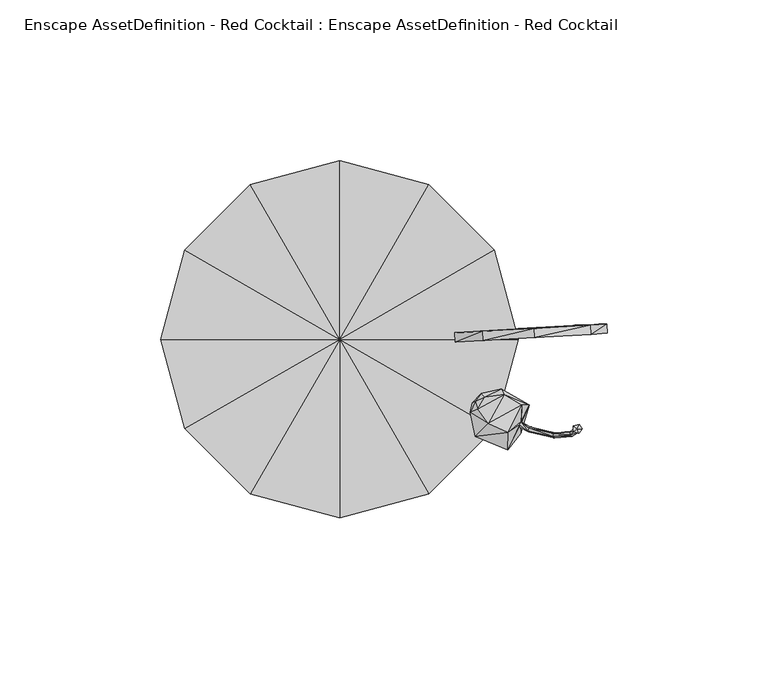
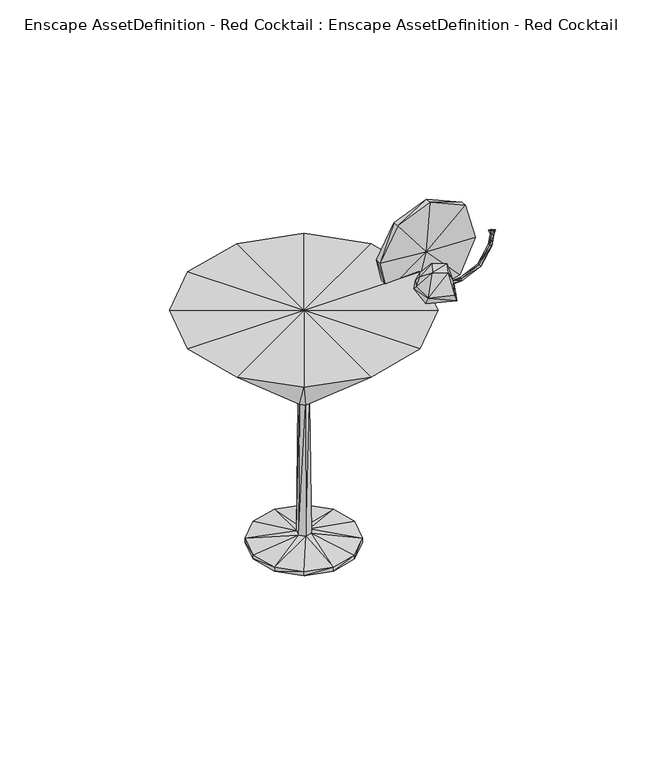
"""IFC4 building model written with IfcOpenShell, lengths in millimetres: geographic element geometry, Enscape AssetDefinition - Red Cocktail : Enscape AssetDefinition - Red Cocktail."""

from ifc_helpers import new_model, si_unit, origin, place, context, project, spatial, faceted_brep, source, transform, mapped, element, save


def enscape_assetdefinition_red_cocktail_enscape_assetdefinition_719ef9fb(model_context):
    return source(origin(), model_context, "Body", "Brep", [
        faceted_brep([(21.0398547, 12.1475421, 1.8707004), (24.2941249, 0.0, 0.0), (21.0398547, 12.1475421, 0.0), (24.2941249, 0.0, 1.8707004), (21.0398547, -12.1475421, 0.0), (12.1475421, 21.0398547, 1.8707004), (3.1139906, 0.8349454, 5.0212019), (0.8349454, 3.1139906, 5.0212019), (21.0398547, -12.1475421, 1.8707004), (12.1475421, -21.0398547, 0.0), (0.0, -24.2941249, 0.0), (12.1475421, -21.0398547, 1.8707004), (2.2800062, -2.2800062, 5.0212019), (0.0, -24.2941249, 1.8707004), (-12.1475421, -21.0398547, 0.0), (-21.0398547, -12.1475421, 0.0), (-21.0398547, 12.1475421, 0.0), (-12.1475421, -21.0398547, 1.8707004), (-0.8349454, -3.1139906, 5.0212019), (-21.0398547, -12.1475421, 1.8707004), (-24.2941249, 0.0, 0.0), (-3.1139906, -0.8349454, 5.0212019), (-0.637979, -2.3818521, 70.7147792), (1.7438732, -1.7438732, 70.7147792), (-24.2941249, 0.0, 1.8707004), (-21.0398547, 12.1475421, 1.8707004), (-2.2800062, 2.2800062, 5.0212019), (-2.3818521, -0.637979, 70.7147792), (-12.1475421, 21.0398547, 0.0), (-12.1475421, 21.0398547, 1.8707004), (0.0, 24.2941249, 0.0), (0.0, 24.2941249, 1.8707004), (12.1475421, 21.0398547, 0.0), (0.637979, 2.3818521, 70.7147792), (-1.7438732, 1.7438732, 70.7147792), (2.3818521, 0.637979, 70.7147792), (55.5483699, 0.0, 116.9999614), (48.106879, 27.7741831, 116.9999614), (27.7741831, 48.106879, 116.9999614), (27.7741831, -48.106879, 116.9999614), (48.106879, -27.7741831, 116.9999614), (0.0, 0.0, 116.9999614), (0.0, 55.5483699, 116.9999614), (-27.7741831, 48.106879, 116.9999614), (-48.106879, 27.7741831, 116.9999614), (-55.5483699, 0.0, 116.9999614), (-48.106879, -27.7741831, 116.9999614), (-27.7741831, -48.106879, 116.9999614), (0.0, -55.5483699, 116.9999614)], [[[0, 1, 2]], [[1, 0, 3]], [[3, 4, 1]], [[2, 1, 4]], [[2, 5, 0]], [[6, 3, 0]], [[7, 0, 5]], [[0, 7, 6]], [[4, 3, 8]], [[6, 8, 3]], [[8, 9, 4]], [[10, 4, 9]], [[2, 4, 10]], [[9, 8, 11]], [[12, 11, 8]], [[8, 6, 12]], [[11, 10, 9]], [[10, 11, 13]], [[12, 13, 11]], [[13, 14, 10]], [[15, 10, 14]], [[16, 10, 15]], [[2, 10, 16]], [[14, 13, 17]], [[18, 17, 13]], [[13, 12, 18]], [[17, 15, 14]], [[19, 20, 15]], [[15, 17, 19]], [[16, 15, 20]], [[18, 19, 17]], [[19, 18, 21]], [[22, 21, 18]], [[23, 18, 12]], [[18, 23, 22]], [[20, 19, 24]], [[21, 24, 19]], [[24, 16, 20]], [[16, 24, 25]], [[21, 25, 24]], [[25, 21, 26]], [[27, 26, 21]], [[21, 22, 27]], [[25, 28, 16]], [[28, 25, 29]], [[26, 29, 25]], [[29, 30, 28]], [[30, 16, 28]], [[2, 16, 30]], [[31, 32, 30]], [[30, 29, 31]], [[2, 30, 32]], [[26, 31, 29]], [[32, 31, 5]], [[7, 5, 31]], [[31, 26, 7]], [[5, 2, 32]], [[33, 6, 7]], [[34, 7, 26]], [[7, 34, 33]], [[6, 33, 35]], [[35, 12, 6]], [[12, 35, 23]], [[36, 35, 37]], [[38, 35, 33]], [[35, 38, 37]], [[36, 23, 35]], [[39, 22, 23]], [[39, 23, 40]], [[23, 36, 40]], [[41, 36, 37]], [[36, 41, 40]], [[41, 37, 38]], [[38, 33, 42]], [[41, 38, 42]], [[43, 33, 34]], [[33, 43, 42]], [[41, 42, 43]], [[43, 34, 44]], [[41, 43, 44]], [[26, 27, 34]], [[45, 34, 27]], [[34, 45, 44]], [[41, 44, 45]], [[45, 27, 46]], [[41, 45, 46]], [[47, 27, 22]], [[27, 47, 46]], [[41, 46, 47]], [[47, 22, 48]], [[41, 47, 48]], [[22, 39, 48]], [[41, 48, 39]], [[41, 39, 40]]]),
        faceted_brep([(56.2122874, -26.6875066, 126.8675029), (52.2835292, -34.4825722, 127.2076219), (56.3198999, -29.209638, 119.9611872), (55.7981767, -27.2553451, 127.6428699), (55.846218, -26.6884658, 128.521055), (52.4430238, -29.0299635, 135.3841275), (42.2526561, -30.149309, 126.7502755), (58.846835, -28.8771968, 128.8794428), (56.2901162, -25.7699303, 128.2885373), (58.5672371, -28.520735, 129.7662705), (56.5783568, -20.3865021, 133.1915557), (46.2707728, -26.2147859, 135.7079297), (56.5168671, -25.7689692, 127.2671968), (58.8593222, -27.5714528, 129.821986), (66.2162602, -30.2713327, 135.138154), (66.8350235, -30.7046585, 134.4905794), (66.3613379, -29.2874612, 135.0910813), (59.3185909, -27.3398962, 128.9697587), (58.9746237, -20.4979554, 123.65935), (67.0685023, -29.1135553, 134.4127506), (59.3109056, -28.1469803, 128.3874959), (71.5881586, -28.8118608, 142.7987218), (71.545884, -29.786123, 142.9985613), (67.3615485, -29.9888551, 134.0418756), (72.4692196, -28.6216196, 142.3769295), (44.7296239, -23.5379655, 118.8764274), (50.2783172, -15.5171091, 122.9666024), (41.2486047, -19.8186636, 125.4771948), (40.5750796, -22.7991007, 128.6488473), (44.0705121, -16.8151651, 127.0269901), (45.1283641, -17.9431587, 131.135419), (51.230479, -17.1716269, 133.3693117), (42.9761447, -21.6297917, 132.1365833), (42.1460047, -19.3257667, 129.2137951), (72.971724, -29.4786636, 142.3154324), (72.401002, -30.1983133, 142.6997483), (74.5167136, -28.3535533, 146.9724774), (73.9565566, -27.5387838, 146.8591094), (73.0274543, -27.7636144, 147.1377462), (74.4475275, -26.4828522, 147.9429007), (72.7084652, -26.9248262, 148.3810395), (75.5073056, -27.9653855, 148.2484341), (73.9344582, -29.0818475, 147.3203003), (73.9546418, -27.8760288, 148.4771222), (72.6921335, -28.6802296, 148.9565521), (73.014006, -28.7167411, 147.4231035), (74.4225532, -29.3230116, 148.8739252)], [[[0, 1, 2]], [[1, 0, 3]], [[1, 4, 5]], [[4, 1, 3]], [[6, 2, 1]], [[5, 6, 1]], [[0, 7, 3]], [[7, 4, 3]], [[8, 5, 4]], [[9, 8, 4]], [[4, 7, 9]], [[5, 8, 10]], [[10, 11, 5]], [[6, 5, 11]], [[12, 10, 8]], [[13, 12, 8]], [[8, 9, 13]], [[14, 13, 9]], [[9, 15, 14]], [[15, 9, 7]], [[16, 17, 13]], [[13, 14, 16]], [[12, 13, 17]], [[0, 18, 12]], [[10, 12, 18]], [[17, 0, 12]], [[19, 20, 17]], [[17, 16, 19]], [[0, 17, 20]], [[21, 19, 16]], [[16, 22, 21]], [[22, 16, 14]], [[20, 19, 23]], [[24, 23, 19]], [[19, 21, 24]], [[23, 7, 20]], [[7, 0, 20]], [[18, 0, 2]], [[2, 6, 25]], [[26, 2, 25]], [[2, 26, 18]], [[27, 6, 28]], [[6, 27, 25]], [[11, 28, 6]], [[29, 25, 27]], [[25, 29, 26]], [[30, 26, 29]], [[26, 30, 31]], [[31, 18, 26]], [[18, 31, 10]], [[32, 31, 30]], [[31, 32, 11]], [[11, 10, 31]], [[28, 11, 32]], [[28, 33, 27]], [[32, 33, 28]], [[27, 33, 29]], [[29, 33, 30]], [[30, 33, 32]], [[7, 23, 15]], [[34, 15, 23]], [[23, 24, 34]], [[15, 34, 35]], [[35, 14, 15]], [[36, 35, 34]], [[34, 37, 36]], [[37, 34, 24]], [[24, 38, 37]], [[38, 24, 21]], [[39, 36, 37]], [[40, 37, 38]], [[37, 40, 39]], [[41, 42, 36]], [[36, 39, 41]], [[35, 36, 42]], [[43, 41, 39]], [[43, 39, 40]], [[38, 44, 40]], [[43, 40, 44]], [[44, 38, 45]], [[21, 45, 38]], [[45, 21, 22]], [[46, 45, 42]], [[45, 46, 44]], [[22, 42, 45]], [[42, 41, 46]], [[42, 22, 35]], [[43, 46, 41]], [[43, 44, 46]], [[14, 35, 22]]]),
        faceted_brep([(83.1928402, 1.8851125, 123.716034), (78.182213, 1.5180826, 141.7620033), (58.9390732, 0.4919356, 125.8038729), (60.7281029, 0.4842491, 149.9865502), (83.0266252, 4.7944505, 123.7294823), (78.0159831, 4.42742, 141.7744905), (75.3958598, 1.5132785, 107.7771336), (75.2296373, 4.4226162, 107.7905819), (58.7728508, 3.4012734, 125.8173287), (60.5618805, 3.3935867, 150.000006), (44.6796641, -0.4054625, 144.3004757), (44.5144065, 2.5038752, 144.3139166), (52.7322255, 3.1591489, 103.3814177), (39.2847061, 2.3482237, 113.0683199), (35.7815884, 2.0763141, 128.7747175), (52.898448, 0.249811, 103.3679619), (39.4509286, -0.5611141, 113.0558252), (35.9468497, -0.8330237, 128.7622154)], [[[0, 1, 2]], [[1, 3, 2]], [[4, 1, 0]], [[1, 4, 5]], [[5, 3, 1]], [[2, 6, 0]], [[7, 0, 6]], [[0, 7, 4]], [[7, 8, 4]], [[8, 5, 4]], [[5, 8, 9]], [[3, 5, 9]], [[3, 10, 2]], [[9, 10, 3]], [[8, 11, 9]], [[10, 9, 11]], [[12, 13, 8]], [[11, 8, 14]], [[8, 7, 12]], [[13, 14, 8]], [[7, 15, 12]], [[15, 7, 6]], [[6, 2, 15]], [[2, 16, 15]], [[13, 15, 16]], [[15, 13, 12]], [[16, 14, 13]], [[17, 11, 14]], [[14, 16, 17]], [[11, 17, 10]], [[10, 17, 2]], [[16, 2, 17]]]),
    ])


if __name__ == "__main__":
    model = new_model("IFC4")
    model_context = context("Model", 3, world=origin())
    ifc_project = project(units=[si_unit("LENGTHUNIT", "METRE", prefix="MILLI")], contexts=[model_context])
    site = spatial("IfcSite", under=ifc_project)
    building = spatial("IfcBuilding", under=site)
    placement = place(None, origin())
    enscape_assetdefinition_red_cocktail_enscape_assetdefinition_shape = enscape_assetdefinition_red_cocktail_enscape_assetdefinition_719ef9fb(model_context)
    element("IfcGeographicElement", 1, ObjectType="Enscape AssetDefinition - Red Cocktail : Enscape AssetDefinition - Red Cocktail", at=placement, inside=building, context=model_context, shape_type="MappedRepresentation", body=[
        mapped(enscape_assetdefinition_red_cocktail_enscape_assetdefinition_shape, transform((0.0, 0.0, 0.0), x_axis=(1.0, 0.0, 0.0), y_axis=(0.0, 1.0, 0.0), z_axis=(0.0, 0.0, 1.0))),
    ])
    save(model, "model.ifc")
